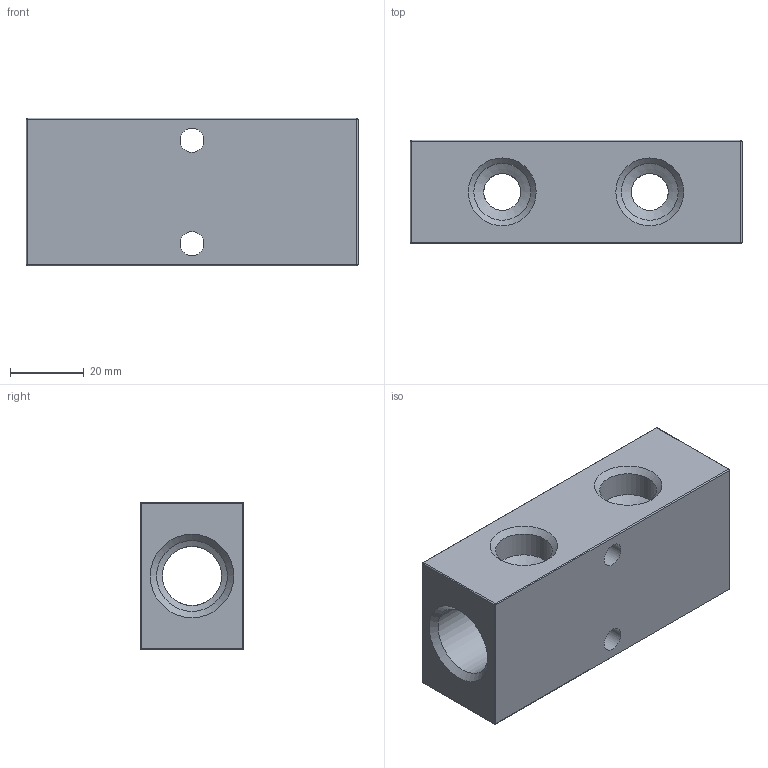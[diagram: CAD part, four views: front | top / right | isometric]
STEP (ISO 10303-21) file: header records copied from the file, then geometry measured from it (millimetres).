
FILE_DESCRIPTION(/* description */ (''),/* implementation_level */ '2;1');
FILE_NAME(/* name */ 'S:\_Tecnico\ArchivioUT\_Disegni3D ingombri\DISEGNI 3D per ingombri\RL\RL52123822.stp',/* time_stamp */ '2020-02-20T11:27:58+01:00',/* author */ ('UfficioTecnico'),/* organization */ (''),/* preprocessor_version */ 'ST-DEVELOPER v18',/* originating_system */ 'Autodesk Inventor 2020',/* authorisation */ '');
FILE_SCHEMA (('AUTOMOTIVE_DESIGN { 1 0 10303 214 3 1 1 }'));
Length unit declared in the file: millimetre
Products named in the file (1): RL51123802
Bounding box: 90 x 28 x 40 mm (x, y, z)
Volume: 69501 mm3; surface area: 20947.6 mm2
Topology: 1 solids, 1 shells, 51 faces, 121 edges, 72 vertices
Faces by surface type: cylinder 25, cone 12, sphere 8, plane 6
Full cylindrical faces by diameter (mm): 6.5 x2, 10 x4, 15.395 x4, 16 x1, 19.172 x2
Entity records: 1660 total; most frequent: CARTESIAN_POINT 381, DIRECTION 281, ORIENTED_EDGE 242, EDGE_CURVE 121, AXIS2_PLACEMENT_3D 116, VERTEX_POINT 72, EDGE_LOOP 65, CIRCLE 64
